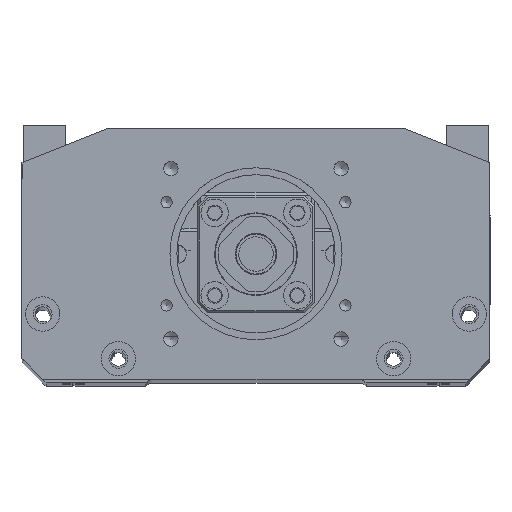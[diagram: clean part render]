
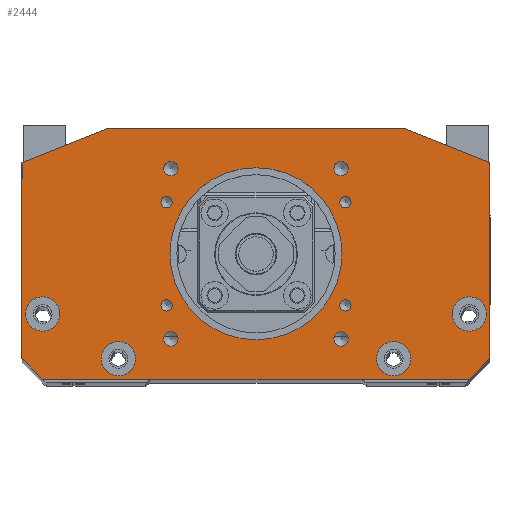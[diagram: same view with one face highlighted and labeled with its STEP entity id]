
A CAD part, top view. The second image highlights one B-rep face of the part: STEP entity #2444.
In plain terms, the highlighted planar face has unit normal (0, 0, 1).
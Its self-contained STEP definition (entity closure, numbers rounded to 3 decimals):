
#478=FACE_BOUND('',#4239,.T.);
#479=FACE_BOUND('',#4240,.T.);
#480=FACE_BOUND('',#4241,.T.);
#481=FACE_BOUND('',#4242,.T.);
#482=FACE_BOUND('',#4243,.T.);
#483=FACE_BOUND('',#4244,.T.);
#484=FACE_BOUND('',#4245,.T.);
#485=FACE_BOUND('',#4246,.T.);
#486=FACE_BOUND('',#4247,.T.);
#487=FACE_BOUND('',#4248,.T.);
#488=FACE_BOUND('',#4249,.T.);
#489=FACE_BOUND('',#4250,.T.);
#490=FACE_BOUND('',#4251,.T.);
#491=FACE_BOUND('',#4252,.T.);
#1128=PLANE('',#14676);
#1746=CIRCLE('',#14663,1.65);
#1747=CIRCLE('',#14664,1.65);
#1748=CIRCLE('',#14665,1.65);
#1749=CIRCLE('',#14666,1.65);
#1750=CIRCLE('',#14667,2.1);
#1751=CIRCLE('',#14668,2.1);
#1752=CIRCLE('',#14669,2.1);
#1753=CIRCLE('',#14670,2.1);
#1754=CIRCLE('',#14671,25.);
#1755=CIRCLE('',#14672,5.);
#1756=CIRCLE('',#14673,5.);
#1757=CIRCLE('',#14674,5.);
#1758=CIRCLE('',#14675,5.);
#2444=ADVANCED_FACE('9',(#478,#479,#480,#481,#482,#483,#484,#485,#486,#487,
#488,#489,#490,#491),#1128,.T.);
#4239=EDGE_LOOP('',(#6949));
#4240=EDGE_LOOP('',(#6950));
#4241=EDGE_LOOP('',(#6951));
#4242=EDGE_LOOP('',(#6952));
#4243=EDGE_LOOP('',(#6953));
#4244=EDGE_LOOP('',(#6954));
#4245=EDGE_LOOP('',(#6955));
#4246=EDGE_LOOP('',(#6956));
#4247=EDGE_LOOP('',(#6957));
#4248=EDGE_LOOP('',(#6958));
#4249=EDGE_LOOP('',(#6959));
#4250=EDGE_LOOP('',(#6960));
#4251=EDGE_LOOP('',(#6961));
#4252=EDGE_LOOP('',(#6962,#6963,#6964,#6965,#6966,#6967,#6968,#6969));
#6949=ORIENTED_EDGE('',*,*,#11272,.F.);
#6950=ORIENTED_EDGE('',*,*,#11273,.F.);
#6951=ORIENTED_EDGE('',*,*,#11274,.F.);
#6952=ORIENTED_EDGE('',*,*,#11275,.F.);
#6953=ORIENTED_EDGE('',*,*,#11276,.F.);
#6954=ORIENTED_EDGE('',*,*,#11277,.F.);
#6955=ORIENTED_EDGE('',*,*,#11278,.F.);
#6956=ORIENTED_EDGE('',*,*,#11279,.F.);
#6957=ORIENTED_EDGE('',*,*,#11280,.F.);
#6958=ORIENTED_EDGE('',*,*,#11281,.F.);
#6959=ORIENTED_EDGE('',*,*,#11282,.F.);
#6960=ORIENTED_EDGE('',*,*,#11283,.F.);
#6961=ORIENTED_EDGE('',*,*,#11284,.F.);
#6962=ORIENTED_EDGE('',*,*,#10424,.F.);
#6963=ORIENTED_EDGE('',*,*,#11242,.T.);
#6964=ORIENTED_EDGE('',*,*,#11285,.F.);
#6965=ORIENTED_EDGE('',*,*,#11245,.T.);
#6966=ORIENTED_EDGE('',*,*,#10319,.F.);
#6967=ORIENTED_EDGE('',*,*,#10371,.T.);
#6968=ORIENTED_EDGE('',*,*,#10386,.F.);
#6969=ORIENTED_EDGE('',*,*,#10400,.T.);
#8941=VERTEX_POINT('',#20189);
#8942=VERTEX_POINT('',#20191);
#8980=VERTEX_POINT('',#20289);
#8990=VERTEX_POINT('',#20317);
#8998=VERTEX_POINT('',#20342);
#9018=VERTEX_POINT('',#20388);
#9539=VERTEX_POINT('',#24463);
#9541=VERTEX_POINT('',#24469);
#9559=VERTEX_POINT('',#24526);
#9560=VERTEX_POINT('',#24528);
#9561=VERTEX_POINT('',#24530);
#9562=VERTEX_POINT('',#24532);
#9563=VERTEX_POINT('',#24534);
#9564=VERTEX_POINT('',#24536);
#9565=VERTEX_POINT('',#24538);
#9566=VERTEX_POINT('',#24540);
#9567=VERTEX_POINT('',#24542);
#9568=VERTEX_POINT('',#24544);
#9569=VERTEX_POINT('',#24546);
#9570=VERTEX_POINT('',#24548);
#9571=VERTEX_POINT('',#24550);
#10319=EDGE_CURVE('',#8941,#8942,#12027,.T.);
#10371=EDGE_CURVE('',#8941,#8980,#12069,.T.);
#10386=EDGE_CURVE('',#8990,#8980,#12082,.T.);
#10400=EDGE_CURVE('',#8990,#8998,#12094,.T.);
#10424=EDGE_CURVE('',#9018,#8998,#12116,.T.);
#11242=EDGE_CURVE('',#9018,#9539,#12534,.T.);
#11245=EDGE_CURVE('',#9541,#8942,#12537,.T.);
#11272=EDGE_CURVE('',#9559,#9559,#1746,.T.);
#11273=EDGE_CURVE('',#9560,#9560,#1747,.T.);
#11274=EDGE_CURVE('',#9561,#9561,#1748,.T.);
#11275=EDGE_CURVE('',#9562,#9562,#1749,.T.);
#11276=EDGE_CURVE('',#9563,#9563,#1750,.T.);
#11277=EDGE_CURVE('',#9564,#9564,#1751,.T.);
#11278=EDGE_CURVE('',#9565,#9565,#1752,.T.);
#11279=EDGE_CURVE('',#9566,#9566,#1753,.T.);
#11280=EDGE_CURVE('',#9567,#9567,#1754,.T.);
#11281=EDGE_CURVE('',#9568,#9568,#1755,.T.);
#11282=EDGE_CURVE('',#9569,#9569,#1756,.T.);
#11283=EDGE_CURVE('',#9570,#9570,#1757,.T.);
#11284=EDGE_CURVE('',#9571,#9571,#1758,.T.);
#11285=EDGE_CURVE('',#9541,#9539,#12551,.T.);
#12027=LINE('',#20190,#12988);
#12069=LINE('',#20290,#13030);
#12082=LINE('',#20318,#13043);
#12094=LINE('',#20343,#13055);
#12116=LINE('',#20389,#13077);
#12534=LINE('',#24462,#13495);
#12537=LINE('',#24468,#13498);
#12551=LINE('',#24551,#13512);
#12988=VECTOR('',#15760,1.);
#13030=VECTOR('',#15840,1.);
#13043=VECTOR('',#15863,1.);
#13055=VECTOR('',#15885,1.);
#13077=VECTOR('',#15915,1.);
#13495=VECTOR('',#17659,1.);
#13498=VECTOR('',#17664,1.);
#13512=VECTOR('',#17754,1.);
#14663=AXIS2_PLACEMENT_3D('',#24525,#17728,#17729);
#14664=AXIS2_PLACEMENT_3D('',#24527,#17730,#17731);
#14665=AXIS2_PLACEMENT_3D('',#24529,#17732,#17733);
#14666=AXIS2_PLACEMENT_3D('',#24531,#17734,#17735);
#14667=AXIS2_PLACEMENT_3D('',#24533,#17736,#17737);
#14668=AXIS2_PLACEMENT_3D('',#24535,#17738,#17739);
#14669=AXIS2_PLACEMENT_3D('',#24537,#17740,#17741);
#14670=AXIS2_PLACEMENT_3D('',#24539,#17742,#17743);
#14671=AXIS2_PLACEMENT_3D('',#24541,#17744,#17745);
#14672=AXIS2_PLACEMENT_3D('',#24543,#17746,#17747);
#14673=AXIS2_PLACEMENT_3D('',#24545,#17748,#17749);
#14674=AXIS2_PLACEMENT_3D('',#24547,#17750,#17751);
#14675=AXIS2_PLACEMENT_3D('',#24549,#17752,#17753);
#14676=AXIS2_PLACEMENT_3D('',#24552,#17755,#17756);
#15760=DIRECTION('',(0.,1.,0.));
#15840=DIRECTION('',(0.707,-0.707,0.));
#15863=DIRECTION('',(-1.,0.,0.));
#15885=DIRECTION('',(0.707,0.707,0.));
#15915=DIRECTION('',(0.,-1.,0.));
#17659=DIRECTION('',(-0.928,0.371,0.));
#17664=DIRECTION('',(-0.928,-0.371,0.));
#17728=DIRECTION('',(0.,0.,1.));
#17729=DIRECTION('',(1.,0.,0.));
#17730=DIRECTION('',(0.,0.,1.));
#17731=DIRECTION('',(1.,0.,0.));
#17732=DIRECTION('',(0.,0.,1.));
#17733=DIRECTION('',(1.,0.,0.));
#17734=DIRECTION('',(0.,0.,1.));
#17735=DIRECTION('',(1.,0.,0.));
#17736=DIRECTION('',(0.,0.,1.));
#17737=DIRECTION('',(1.,0.,0.));
#17738=DIRECTION('',(0.,0.,1.));
#17739=DIRECTION('',(1.,0.,0.));
#17740=DIRECTION('',(0.,0.,1.));
#17741=DIRECTION('',(1.,0.,0.));
#17742=DIRECTION('',(0.,0.,1.));
#17743=DIRECTION('',(1.,0.,0.));
#17744=DIRECTION('',(0.,0.,1.));
#17745=DIRECTION('',(1.,0.,0.));
#17746=DIRECTION('',(0.,0.,1.));
#17747=DIRECTION('',(1.,0.,0.));
#17748=DIRECTION('',(0.,0.,1.));
#17749=DIRECTION('',(1.,0.,0.));
#17750=DIRECTION('',(0.,0.,1.));
#17751=DIRECTION('',(1.,0.,0.));
#17752=DIRECTION('',(0.,0.,1.));
#17753=DIRECTION('',(1.,0.,0.));
#17754=DIRECTION('',(1.,0.,0.));
#17755=DIRECTION('',(0.,0.,1.));
#17756=DIRECTION('',(-1.,0.,0.));
#20189=CARTESIAN_POINT('',(-68.,6.,180.));
#20190=CARTESIAN_POINT('',(-68.,0.,180.));
#20191=CARTESIAN_POINT('',(-68.,63.,180.));
#20289=CARTESIAN_POINT('',(-62.,0.,180.));
#20290=CARTESIAN_POINT('',(-49.25,-12.75,180.));
#20317=CARTESIAN_POINT('',(62.,0.,180.));
#20318=CARTESIAN_POINT('',(68.,0.,180.));
#20342=CARTESIAN_POINT('',(68.,6.,180.));
#20343=CARTESIAN_POINT('',(49.25,-12.75,180.));
#20388=CARTESIAN_POINT('',(68.,63.,180.));
#20389=CARTESIAN_POINT('',(68.,0.,180.));
#24462=CARTESIAN_POINT('',(18.517,82.793,180.));
#24463=CARTESIAN_POINT('',(43.,73.,180.));
#24468=CARTESIAN_POINT('',(-18.517,82.793,180.));
#24469=CARTESIAN_POINT('',(-43.,73.,180.));
#24525=CARTESIAN_POINT('',(25.981,51.5,180.));
#24526=CARTESIAN_POINT('',(27.631,51.5,180.));
#24527=CARTESIAN_POINT('',(25.981,21.5,180.));
#24528=CARTESIAN_POINT('',(27.631,21.5,180.));
#24529=CARTESIAN_POINT('',(-25.981,21.5,180.));
#24530=CARTESIAN_POINT('',(-24.331,21.5,180.));
#24531=CARTESIAN_POINT('',(-25.981,51.5,180.));
#24532=CARTESIAN_POINT('',(-24.331,51.5,180.));
#24533=CARTESIAN_POINT('',(-24.749,61.249,180.));
#24534=CARTESIAN_POINT('',(-22.649,61.249,180.));
#24535=CARTESIAN_POINT('',(24.749,61.249,180.));
#24536=CARTESIAN_POINT('',(26.849,61.249,180.));
#24537=CARTESIAN_POINT('',(24.749,11.751,180.));
#24538=CARTESIAN_POINT('',(26.849,11.751,180.));
#24539=CARTESIAN_POINT('',(-24.749,11.751,180.));
#24540=CARTESIAN_POINT('',(-22.649,11.751,180.));
#24541=CARTESIAN_POINT('',(0.,36.5,180.));
#24542=CARTESIAN_POINT('',(25.,36.5,180.));
#24543=CARTESIAN_POINT('',(-62.,19.,180.));
#24544=CARTESIAN_POINT('',(-57.,19.,180.));
#24545=CARTESIAN_POINT('',(62.,19.,180.));
#24546=CARTESIAN_POINT('',(67.,19.,180.));
#24547=CARTESIAN_POINT('',(-40.,6.,180.));
#24548=CARTESIAN_POINT('',(-35.,6.,180.));
#24549=CARTESIAN_POINT('',(40.,6.,180.));
#24550=CARTESIAN_POINT('',(45.,6.,180.));
#24551=CARTESIAN_POINT('',(68.,73.,180.));
#24552=CARTESIAN_POINT('',(0.,36.5,180.));
